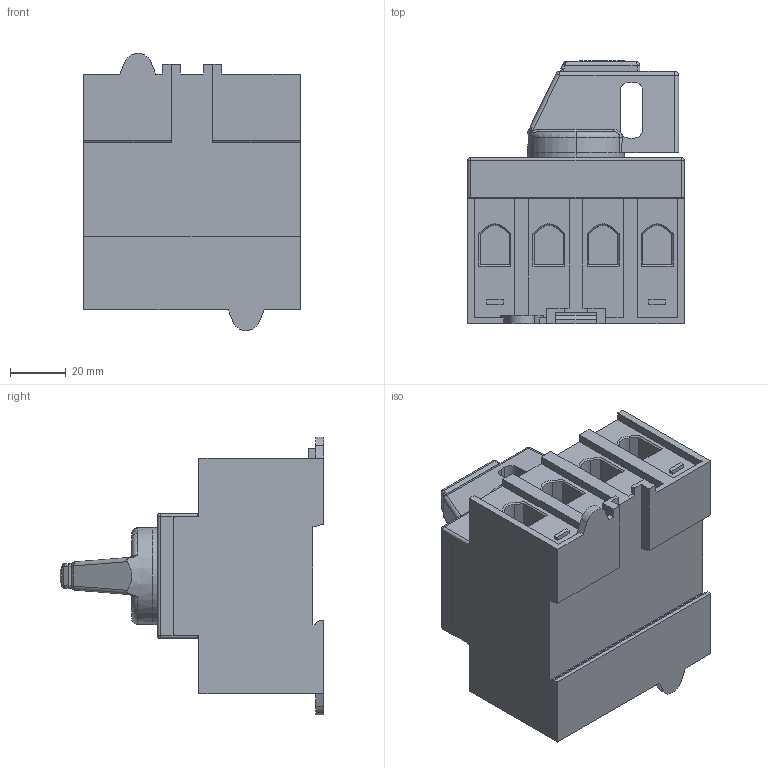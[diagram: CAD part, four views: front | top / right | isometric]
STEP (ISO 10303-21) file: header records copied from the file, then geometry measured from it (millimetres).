
FILE_DESCRIPTION (( 'STEP AP203' ), '1' );
FILE_NAME ('LTS85_100_125_SMAHN1 A4.STEP', '2014-05-09T09:56:38', ( '' ), ( '' ), 'SwSTEP 2.0', 'SolidWorks 2014', '' );
FILE_SCHEMA (( 'CONFIG_CONTROL_DESIGN' ));
Length unit declared in the file: millimetre
Products named in the file (4): Schalterkörper LTS125 V; SMA Kappe LTS125; SV164_64x64_nur griff; LTS85_100_125_SMAHN1 A4
Assembly tree (3 placements, depth 2):
  LTS85_100_125_SMAHN1 A4
    Schalterkörper LTS125 V
    SMA Kappe LTS125
    SV164_64x64_nur griff
Bounding box: 78 x 95 x 100 mm (x, y, z)
Volume: 312906.5 mm3; surface area: 58047.1 mm2
Topology: 3 solids, 3 shells, 366 faces, 889 edges, 549 vertices
Faces by surface type: plane 250, cylinder 80, bspline 14, cone 11, sphere 8, torus 3
Entity records: 11273 total; most frequent: CARTESIAN_POINT 2449, ORIENTED_EDGE 1754, DIRECTION 1694, EDGE_CURVE 877, LINE 650, VECTOR 650, VERTEX_POINT 549, AXIS2_PLACEMENT_3D 522
